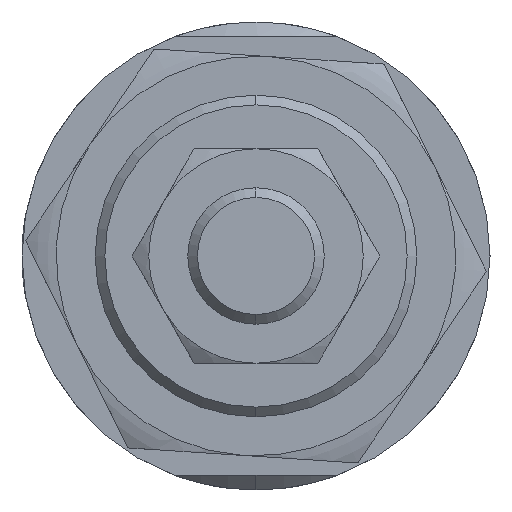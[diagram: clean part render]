
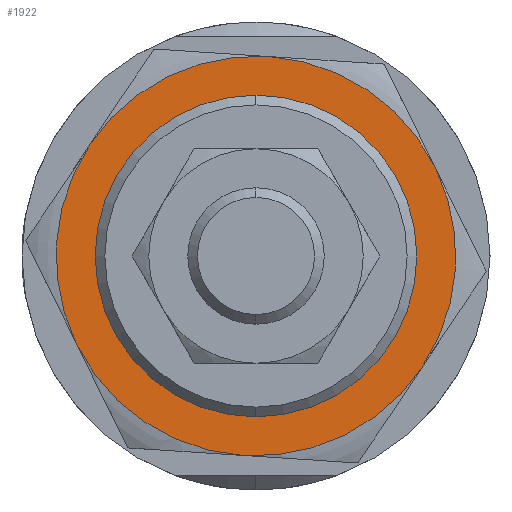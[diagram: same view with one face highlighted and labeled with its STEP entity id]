
A CAD part, left-side view. The second image highlights one B-rep face of the part: STEP entity #1922.
In plain terms, the highlighted planar face has unit normal (-1, 0, 0) as drawn and (0, 0, -1) by its records, which use the part's own axes.
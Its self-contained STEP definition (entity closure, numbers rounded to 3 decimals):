
#41 = CIRCLE ( 'NONE', #1795, 15.5 ) ;
#44 = ORIENTED_EDGE ( 'NONE', *, *, #3255, .T. ) ;
#45 = DIRECTION ( 'NONE',  ( 0., 0., 1. ) ) ;
#57 = VERTEX_POINT ( 'NONE', #499 ) ;
#94 = CIRCLE ( 'NONE', #2940, 15.5 ) ;
#110 = CARTESIAN_POINT ( 'NONE',  ( 10.25, 17.754, -5.5 ) ) ;
#155 = VERTEX_POINT ( 'NONE', #1223 ) ;
#171 = ORIENTED_EDGE ( 'NONE', *, *, #797, .F. ) ;
#268 = DIRECTION ( 'NONE',  ( 1., 0., 0. ) ) ;
#287 = EDGE_LOOP ( 'NONE', ( #44, #333 ) ) ;
#333 = ORIENTED_EDGE ( 'NONE', *, *, #351, .T. ) ;
#335 = DIRECTION ( 'NONE',  ( 1., 0., 0. ) ) ;
#345 = DIRECTION ( 'NONE',  ( 0., 0., 1. ) ) ;
#351 = EDGE_CURVE ( 'NONE', #400, #2107, #94, .T. ) ;
#379 = CARTESIAN_POINT ( 'NONE',  ( 0., 0., -5.5 ) ) ;
#400 = VERTEX_POINT ( 'NONE', #2077 ) ;
#419 = VERTEX_POINT ( 'NONE', #110 ) ;
#434 = CIRCLE ( 'NONE', #1744, 20.5 ) ;
#471 = DIRECTION ( 'NONE',  ( 0., 0., 1. ) ) ;
#488 = CARTESIAN_POINT ( 'NONE',  ( 0., 0., -5.5 ) ) ;
#499 = CARTESIAN_POINT ( 'NONE',  ( -10.25, -17.754, -5.5 ) ) ;
#509 = DIRECTION ( 'NONE',  ( 1., 0., 0. ) ) ;
#603 = EDGE_CURVE ( 'NONE', #2004, #2627, #1505, .T. ) ;
#659 = CIRCLE ( 'NONE', #3455, 20.5 ) ;
#675 = CARTESIAN_POINT ( 'NONE',  ( 0., 0., -5.5 ) ) ;
#680 = CARTESIAN_POINT ( 'NONE',  ( 0., 0., -5.5 ) ) ;
#796 = CARTESIAN_POINT ( 'NONE',  ( 0., 0., -5.5 ) ) ;
#797 = EDGE_CURVE ( 'NONE', #155, #419, #434, .T. ) ;
#849 = DIRECTION ( 'NONE',  ( 1., 0., 0. ) ) ;
#873 = ORIENTED_EDGE ( 'NONE', *, *, #3316, .F. ) ;
#911 = AXIS2_PLACEMENT_3D ( 'NONE', #680, #2897, #509 ) ;
#919 = CARTESIAN_POINT ( 'NONE',  ( 0., 0., -5.5 ) ) ;
#1078 = CARTESIAN_POINT ( 'NONE',  ( 0., 0., -5.5 ) ) ;
#1085 = DIRECTION ( 'NONE',  ( 1., 0., 0. ) ) ;
#1105 = VERTEX_POINT ( 'NONE', #1356 ) ;
#1220 = DIRECTION ( 'NONE',  ( 0., 0., 1. ) ) ;
#1223 = CARTESIAN_POINT ( 'NONE',  ( 20.5, 0., -5.5 ) ) ;
#1280 = CARTESIAN_POINT ( 'NONE',  ( -20.5, 0., -5.5 ) ) ;
#1356 = CARTESIAN_POINT ( 'NONE',  ( 10.25, -17.754, -5.5 ) ) ;
#1385 = CARTESIAN_POINT ( 'NONE',  ( -10.25, 17.754, -5.5 ) ) ;
#1415 = AXIS2_PLACEMENT_3D ( 'NONE', #675, #2523, #268 ) ;
#1484 = DIRECTION ( 'NONE',  ( 0., 0., 1. ) ) ;
#1505 = CIRCLE ( 'NONE', #2964, 20.5 ) ;
#1614 = EDGE_LOOP ( 'NONE', ( #171, #1828, #2483, #873, #2721, #2036 ) ) ;
#1736 = EDGE_CURVE ( 'NONE', #419, #2004, #2413, .T. ) ;
#1744 = AXIS2_PLACEMENT_3D ( 'NONE', #379, #1484, #849 ) ;
#1755 = AXIS2_PLACEMENT_3D ( 'NONE', #1078, #2272, #3015 ) ;
#1773 = CARTESIAN_POINT ( 'NONE',  ( 0., 0., -5.5 ) ) ;
#1779 = CARTESIAN_POINT ( 'NONE',  ( 15.5, 0., -5.5 ) ) ;
#1795 = AXIS2_PLACEMENT_3D ( 'NONE', #919, #45, #335 ) ;
#1827 = CARTESIAN_POINT ( 'NONE',  ( 0., 0., -5.5 ) ) ;
#1828 = ORIENTED_EDGE ( 'NONE', *, *, #2289, .F. ) ;
#1849 = DIRECTION ( 'NONE',  ( 0., 0., 1. ) ) ;
#1922 = ADVANCED_FACE ( 'NONE', ( #3405, #2863 ), #3352, .F. ) ;
#1924 = AXIS2_PLACEMENT_3D ( 'NONE', #1827, #345, #2484 ) ;
#2004 = VERTEX_POINT ( 'NONE', #1385 ) ;
#2036 = ORIENTED_EDGE ( 'NONE', *, *, #1736, .F. ) ;
#2077 = CARTESIAN_POINT ( 'NONE',  ( -15.5, 0., -5.5 ) ) ;
#2107 = VERTEX_POINT ( 'NONE', #1779 ) ;
#2218 = CIRCLE ( 'NONE', #1755, 20.5 ) ;
#2272 = DIRECTION ( 'NONE',  ( 0., 0., 1. ) ) ;
#2289 = EDGE_CURVE ( 'NONE', #1105, #155, #659, .T. ) ;
#2413 = CIRCLE ( 'NONE', #911, 20.5 ) ;
#2483 = ORIENTED_EDGE ( 'NONE', *, *, #2537, .F. ) ;
#2484 = DIRECTION ( 'NONE',  ( 1., 0., 0. ) ) ;
#2523 = DIRECTION ( 'NONE',  ( 0., 0., 1. ) ) ;
#2537 = EDGE_CURVE ( 'NONE', #57, #1105, #3386, .T. ) ;
#2627 = VERTEX_POINT ( 'NONE', #1280 ) ;
#2721 = ORIENTED_EDGE ( 'NONE', *, *, #603, .F. ) ;
#2863 = FACE_OUTER_BOUND ( 'NONE', #1614, .T. ) ;
#2883 = DIRECTION ( 'NONE',  ( 1., 0., 0. ) ) ;
#2897 = DIRECTION ( 'NONE',  ( 0., 0., 1. ) ) ;
#2940 = AXIS2_PLACEMENT_3D ( 'NONE', #1773, #471, #1085 ) ;
#2964 = AXIS2_PLACEMENT_3D ( 'NONE', #796, #1220, #3009 ) ;
#3009 = DIRECTION ( 'NONE',  ( 1., 0., 0. ) ) ;
#3015 = DIRECTION ( 'NONE',  ( 1., 0., 0. ) ) ;
#3255 = EDGE_CURVE ( 'NONE', #2107, #400, #41, .T. ) ;
#3316 = EDGE_CURVE ( 'NONE', #2627, #57, #2218, .T. ) ;
#3352 = PLANE ( 'NONE',  #1924 ) ;
#3386 = CIRCLE ( 'NONE', #1415, 20.5 ) ;
#3405 = FACE_BOUND ( 'NONE', #287, .T. ) ;
#3455 = AXIS2_PLACEMENT_3D ( 'NONE', #488, #1849, #2883 ) ;
